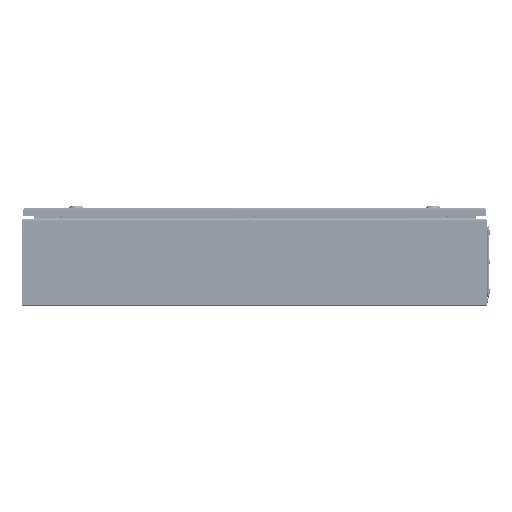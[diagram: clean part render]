
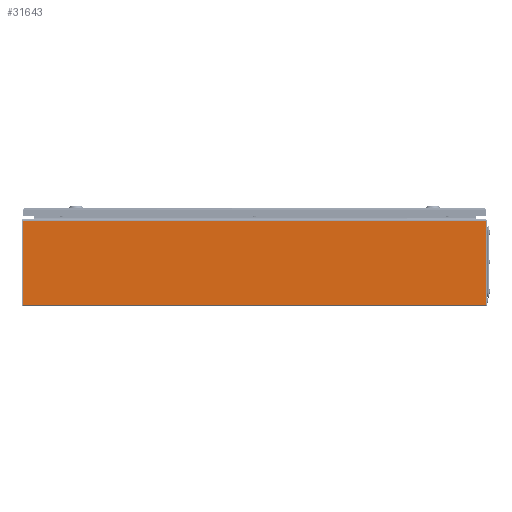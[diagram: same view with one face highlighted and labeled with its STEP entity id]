
A CAD part, left-side view. The second image highlights one B-rep face of the part: STEP entity #31643.
In plain terms, the highlighted planar face has unit normal (-1, 0, 0).
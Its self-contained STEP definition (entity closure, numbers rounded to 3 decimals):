
#158 = CARTESIAN_POINT ( 'NONE',  ( -300., -498.423, 2.9 ) ) ;
#4015 = CARTESIAN_POINT ( 'NONE',  ( -300., 498.423, 183.85 ) ) ;
#4573 = EDGE_CURVE ( 'NONE', #32517, #23337, #13043, .T. ) ;
#7603 = VERTEX_POINT ( 'NONE', #23472 ) ;
#9411 = CARTESIAN_POINT ( 'NONE',  ( -300., 498.423, 2.9 ) ) ;
#11393 = DIRECTION ( 'NONE',  ( 0., -1., 0. ) ) ;
#12112 = CARTESIAN_POINT ( 'NONE',  ( -300., -498.529, 2.9 ) ) ;
#12536 = DIRECTION ( 'NONE',  ( 0., 1., 0. ) ) ;
#12554 = VERTEX_POINT ( 'NONE', #9411 ) ;
#13034 = EDGE_CURVE ( 'NONE', #12554, #32517, #15372, .T. ) ;
#13043 = LINE ( 'NONE', #47329, #30138 ) ;
#15116 = VECTOR ( 'NONE', #24454, 1000. ) ;
#15372 = LINE ( 'NONE', #41890, #46353 ) ;
#15432 = CARTESIAN_POINT ( 'NONE',  ( -300., 498.529, 183.85 ) ) ;
#15710 = LINE ( 'NONE', #15432, #24747 ) ;
#16319 = VERTEX_POINT ( 'NONE', #4015 ) ;
#16416 = VECTOR ( 'NONE', #12536, 1000. ) ;
#17128 = CARTESIAN_POINT ( 'NONE',  ( -300., -5500., 183.85 ) ) ;
#17957 = DIRECTION ( 'NONE',  ( 0., 1., 0. ) ) ;
#17970 = EDGE_CURVE ( 'NONE', #33936, #12554, #44655, .T. ) ;
#19620 = ORIENTED_EDGE ( 'NONE', *, *, #40705, .F. ) ;
#19978 = DIRECTION ( 'NONE',  ( 0., -1., 0. ) ) ;
#20479 = EDGE_CURVE ( 'NONE', #30963, #7603, #26901, .T. ) ;
#22754 = VERTEX_POINT ( 'NONE', #56622 ) ;
#23337 = VERTEX_POINT ( 'NONE', #35118 ) ;
#23472 = CARTESIAN_POINT ( 'NONE',  ( -300., -498.423, 183.85 ) ) ;
#23772 = VECTOR ( 'NONE', #17957, 1000. ) ;
#23976 = FACE_OUTER_BOUND ( 'NONE', #32091, .T. ) ;
#24171 = ORIENTED_EDGE ( 'NONE', *, *, #20479, .T. ) ;
#24454 = DIRECTION ( 'NONE',  ( 0., 1., 0. ) ) ;
#24747 = VECTOR ( 'NONE', #11393, 1000. ) ;
#24894 = LINE ( 'NONE', #42473, #40963 ) ;
#26901 = LINE ( 'NONE', #45302, #23772 ) ;
#27766 = DIRECTION ( 'NONE',  ( 0., 0., -1. ) ) ;
#28640 = EDGE_CURVE ( 'NONE', #7603, #16319, #56331, .T. ) ;
#29386 = CARTESIAN_POINT ( 'NONE',  ( -300., -5500., 183.85 ) ) ;
#29413 = LINE ( 'NONE', #12112, #54868 ) ;
#29767 = DIRECTION ( 'NONE',  ( 0., 0., 1. ) ) ;
#30138 = VECTOR ( 'NONE', #29767, 1000. ) ;
#30963 = VERTEX_POINT ( 'NONE', #40519 ) ;
#31206 = AXIS2_PLACEMENT_3D ( 'NONE', #29386, #40717, #27766 ) ;
#31643 = ADVANCED_FACE ( 'NONE', ( #23976 ), #51555, .F. ) ;
#31966 = ORIENTED_EDGE ( 'NONE', *, *, #37532, .T. ) ;
#32091 = EDGE_LOOP ( 'NONE', ( #38573, #19620, #48829, #43100, #42447, #45402, #31966, #24171 ) ) ;
#32517 = VERTEX_POINT ( 'NONE', #55112 ) ;
#33812 = DIRECTION ( 'NONE',  ( 0., 1., 0. ) ) ;
#33936 = VERTEX_POINT ( 'NONE', #158 ) ;
#35118 = CARTESIAN_POINT ( 'NONE',  ( -300., 498.529, 183.85 ) ) ;
#37532 = EDGE_CURVE ( 'NONE', #22754, #30963, #29413, .T. ) ;
#38573 = ORIENTED_EDGE ( 'NONE', *, *, #28640, .T. ) ;
#40519 = CARTESIAN_POINT ( 'NONE',  ( -300., -498.529, 183.85 ) ) ;
#40705 = EDGE_CURVE ( 'NONE', #23337, #16319, #15710, .T. ) ;
#40717 = DIRECTION ( 'NONE',  ( 1., 0., 0. ) ) ;
#40963 = VECTOR ( 'NONE', #19978, 1000. ) ;
#41890 = CARTESIAN_POINT ( 'NONE',  ( -300., 498.423, 2.9 ) ) ;
#42043 = CARTESIAN_POINT ( 'NONE',  ( -300., -5500., 2.9 ) ) ;
#42447 = ORIENTED_EDGE ( 'NONE', *, *, #17970, .F. ) ;
#42473 = CARTESIAN_POINT ( 'NONE',  ( -300., -498.423, 2.9 ) ) ;
#42659 = DIRECTION ( 'NONE',  ( 0., 0., 1. ) ) ;
#43100 = ORIENTED_EDGE ( 'NONE', *, *, #13034, .F. ) ;
#44655 = LINE ( 'NONE', #42043, #15116 ) ;
#45302 = CARTESIAN_POINT ( 'NONE',  ( -300., -498.529, 183.85 ) ) ;
#45402 = ORIENTED_EDGE ( 'NONE', *, *, #46699, .T. ) ;
#46353 = VECTOR ( 'NONE', #33812, 1000. ) ;
#46699 = EDGE_CURVE ( 'NONE', #33936, #22754, #24894, .T. ) ;
#47329 = CARTESIAN_POINT ( 'NONE',  ( -300., 498.529, 2.9 ) ) ;
#48829 = ORIENTED_EDGE ( 'NONE', *, *, #4573, .F. ) ;
#51555 = PLANE ( 'NONE',  #31206 ) ;
#54868 = VECTOR ( 'NONE', #42659, 1000. ) ;
#55112 = CARTESIAN_POINT ( 'NONE',  ( -300., 498.529, 2.9 ) ) ;
#56331 = LINE ( 'NONE', #17128, #16416 ) ;
#56622 = CARTESIAN_POINT ( 'NONE',  ( -300., -498.529, 2.9 ) ) ;
